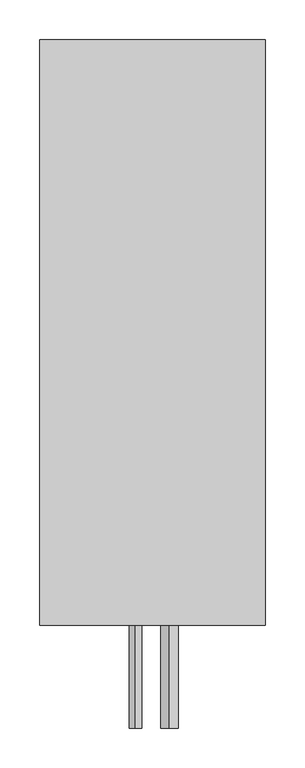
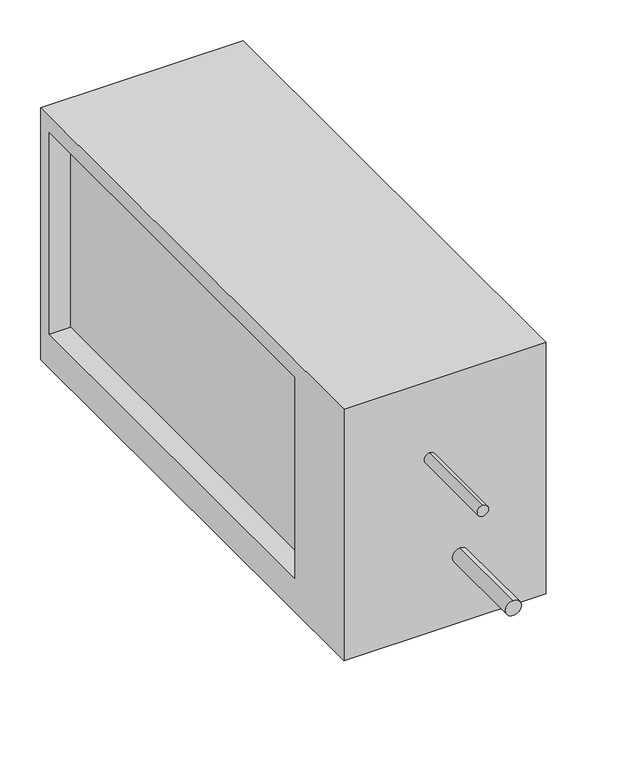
"""IFC4 building model written with IfcOpenShell, lengths in millimetres: proxy geometry, СВ_ВоздухоохладительФреоновый_КанальныйПрямоугольный_200-1000_SPC-F : SPC-F-600x300-R."""

from ifc_helpers import new_model, si_unit, point, frame, frame_2d, origin, place, context, project, spatial, polyline, circle_curve, trimmed, segment, composite_curve, outline, extrude, source, transform, mapped, element, save


def mechanical_equipment_1a7b202f(model_context):
    return source(origin(), model_context, "Body", "SweptSolid", [
        extrude(outline(polyline([(-420.0, -200.0), (-420.0, 175.0), (320.0, 175.0), (320.0, -200.0), (-420.0, -200.0)]), holes=[polyline([(-300.0, 150.0), (-300.0, -150.0), (300.0, -150.0), (300.0, 150.0), (-300.0, 150.0)])]), frame((-142.5, 0.0, 0.0), z_axis=(1.0, 0.0, 0.0), x_axis=(0.0, 1.0, 0.0)), (0.0, 0.0, 1.0), 285.0),
        extrude(outline(composite_curve([segment(trimmed(circle_curve(frame_2d((-100.0, 21.5)), 11.1), [point((-88.9, 21.5))], [point((-111.1, 21.5))], False, "CARTESIAN"), True, "CONTINUOUS"), segment(trimmed(circle_curve(frame_2d((-100.0, 21.5)), 11.1), [point((-111.1, 21.5))], [point((-88.9, 21.5))], False, "CARTESIAN"), True, "CONTINUOUS")], self_intersect=False)), frame((0.0, -550.0, 0.0), z_axis=(0.0, 1.0, 0.0), x_axis=(0.0, 0.0, 1.0)), (0.0, 0.0, 1.0), 130.0),
        extrude(outline(composite_curve([segment(trimmed(circle_curve(frame_2d((60.0, -21.5)), 7.95), [point((67.95, -21.5))], [point((52.05, -21.5))], False, "CARTESIAN"), True, "CONTINUOUS"), segment(trimmed(circle_curve(frame_2d((60.0, -21.5)), 7.95), [point((52.05, -21.5))], [point((67.95, -21.5))], False, "CARTESIAN"), True, "CONTINUOUS")], self_intersect=False)), frame((0.0, -550.0, 0.0), z_axis=(0.0, 1.0, 0.0), x_axis=(0.0, 0.0, 1.0)), (0.0, 0.0, 1.0), 130.0),
        extrude(outline(composite_curve([segment(trimmed(circle_curve(frame_2d((0.0, -380.0)), 11.0), [point((-11.0, -380.0))], [point((11.0, -380.0))], False, "CARTESIAN"), True, "CONTINUOUS"), segment(trimmed(circle_curve(frame_2d((0.0, -380.0)), 11.0), [point((11.0, -380.0))], [point((-11.0, -380.0))], False, "CARTESIAN"), True, "CONTINUOUS")], self_intersect=False)), frame((0.0, 0.0, -220.0), z_axis=(0.0, 0.0, 1.0), x_axis=(1.0, 0.0, 0.0)), (0.0, 0.0, 1.0), 20.0),
        extrude(outline(polyline([(112.5, 300.0), (112.5, -300.0), (-112.5, -300.0), (-112.5, 300.0), (112.5, 300.0)])), frame((0.0, 0.0, -150.0), z_axis=(0.0, 0.0, 1.0), x_axis=(1.0, 0.0, 0.0)), (0.0, 0.0, 1.0), 300.0),
    ])


if __name__ == "__main__":
    model = new_model("IFC4")
    model_context = context("Model", 3, world=origin())
    ifc_project = project(units=[si_unit("LENGTHUNIT", "METRE", prefix="MILLI")], contexts=[model_context])
    site = spatial("IfcSite", under=ifc_project)
    building = spatial("IfcBuilding", under=site)
    placement = place(None, origin())
    mechanical_equipment_shape = mechanical_equipment_1a7b202f(model_context)
    element("IfcBuildingElementProxy", 1, Name="СВ_ВоздухоохладительФреоновый_КанальныйПрямоугольный_200-1000_SPC-F : SPC-F-600x300-R", ObjectType="СВ_ВоздухоохладительФреоновый_КанальныйПрямоугольный_200-1000_SPC-F : SPC-F-600x300-R", at=placement, inside=building, context=model_context, shape_type="MappedRepresentation", body=[
        mapped(mechanical_equipment_shape, transform((0.0, 0.0, 0.0), x_axis=(1.0, 0.0, 0.0), y_axis=(0.0, 1.0, 0.0), z_axis=(0.0, 0.0, 1.0))),
    ])
    save(model, "model.ifc")
